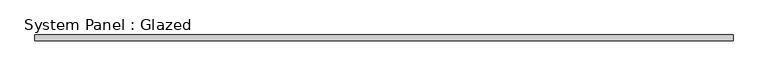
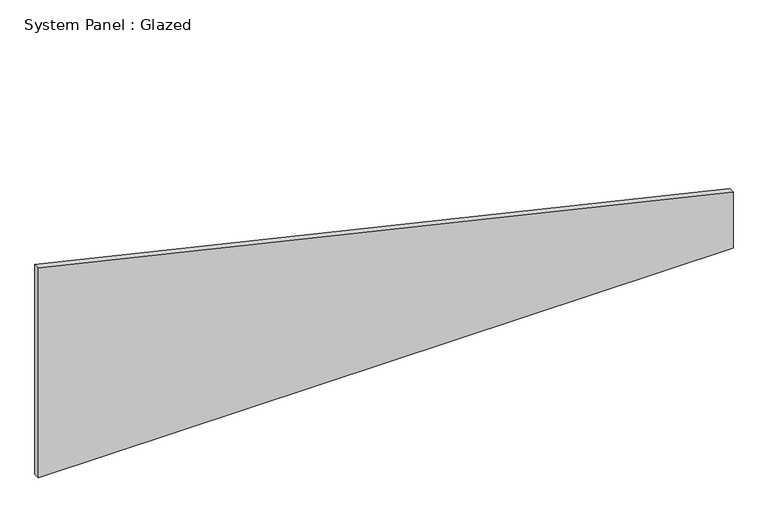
"""IFC4 building model written with IfcOpenShell, lengths in millimetres: plate geometry, System Panel : Glazed."""

from ifc_helpers import new_model, si_unit, frame, origin, place, context, project, spatial, polyline, outline, extrude, source, transform, mapped, element, save


def system_panel_glazed_4b868f30(model_context):
    return source(origin(), model_context, "Body", "SweptSolid", [
        extrude(outline(polyline([(0.0, -1504.95), (0.0, 1504.95), (255.7056876, 1504.95), (961.3248086, -1504.95), (0.0, -1504.95)])), frame((0.0, 19.05, 0.0), z_axis=(0.0, 1.0, 0.0), x_axis=(0.0, 0.0, 1.0)), (0.0, 0.0, 1.0), 25.4),
    ])


if __name__ == "__main__":
    model = new_model("IFC4")
    model_context = context("Model", 3, world=origin())
    ifc_project = project(units=[si_unit("LENGTHUNIT", "METRE", prefix="MILLI")], contexts=[model_context])
    site = spatial("IfcSite", under=ifc_project)
    building = spatial("IfcBuilding", under=site)
    placement = place(None, origin())
    system_panel_glazed_shape = system_panel_glazed_4b868f30(model_context)
    element("IfcPlate", 1, ObjectType="System Panel : Glazed", at=placement, inside=building, context=model_context, shape_type="MappedRepresentation", body=[
        mapped(system_panel_glazed_shape, transform((0.0, 0.0, 0.0), x_axis=(1.0, 0.0, 0.0), y_axis=(0.0, 1.0, 0.0), z_axis=(0.0, 0.0, 1.0))),
    ])
    save(model, "model.ifc")
